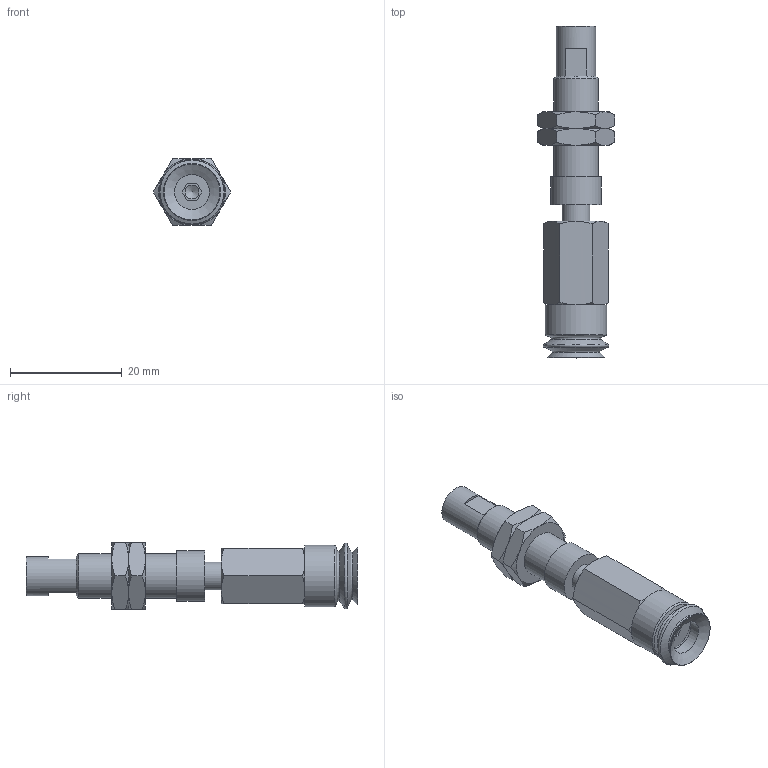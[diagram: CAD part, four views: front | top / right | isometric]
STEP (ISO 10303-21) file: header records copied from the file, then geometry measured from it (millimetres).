
FILE_DESCRIPTION(('STEP AP203'),'1');
FILE_NAME('.stp','2025-08-27T07:25:10',(' '),(' '),'Spatial InterOp 3D',' ',' ');
FILE_SCHEMA(('CONFIG_CONTROL_DESIGN'));
Length unit declared in the file: millimetre
Products named in the file (7): BNABPJTS-10-3-※; ADAPTER; NAPCTS-10-3-MBODY; Adapter-10-NAPJ; NUT-NAPJ-10-3-s; NAPJTS-10-3-FBODY; BPJG-10-※
Assembly tree (7 placements, depth 2):
  BNABPJTS-10-3-※
    ADAPTER
    NAPCTS-10-3-MBODY
    Adapter-10-NAPJ
    NUT-NAPJ-10-3-s  x2
    NAPJTS-10-3-FBODY
    BPJG-10-※
Bounding box: 13.86 x 59.5 x 12 mm (x, y, z)
Volume: 3898.2 mm3; surface area: 4329.7 mm2
Topology: 7 solids, 7 shells, 122 faces, 254 edges, 152 vertices
Faces by surface type: cone 51, plane 48, cylinder 16, torus 7
Full cylindrical faces by diameter (mm): 2.5 x1, 4.134 x2, 4.6 x1, 5 x3, 6.266 x1, 7 x1, 7.188 x2, 7.8 x1, 8 x2, 9 x1, 11 x1
Entity records: 3108 total; most frequent: CARTESIAN_POINT 876, DIRECTION 402, ORIENTED_EDGE 322, AXIS2_PLACEMENT_3D 182, EDGE_CURVE 161, EDGE_LOOP 148, FACE_OUTER_BOUND 121, VERTEX_POINT 116
